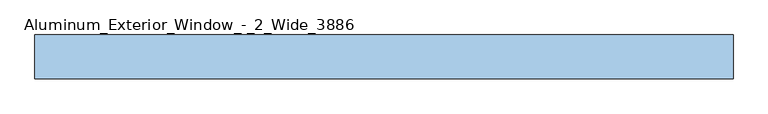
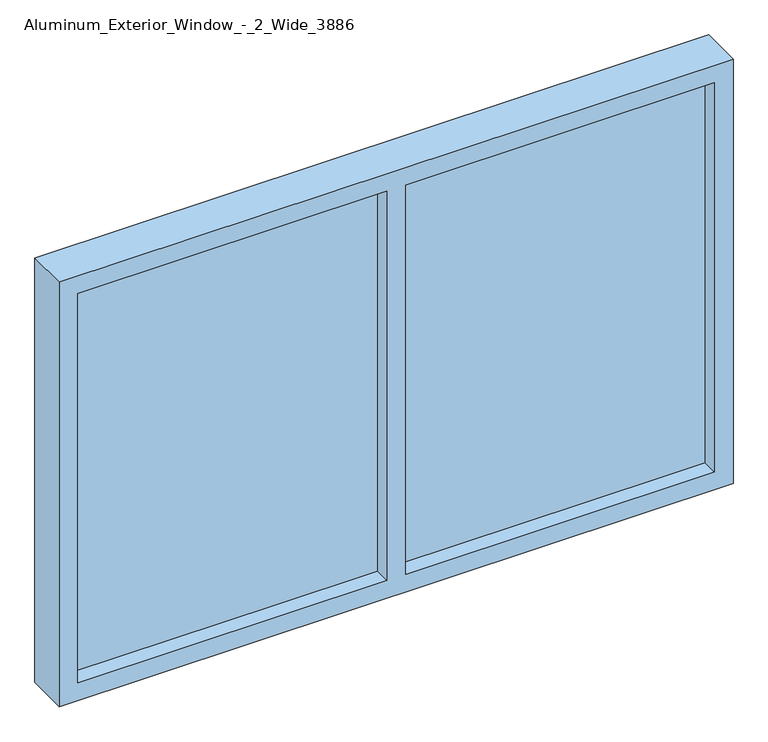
"""IFC4 building model written with IfcOpenShell, lengths in millimetres: window geometry."""

from ifc_helpers import new_model, si_unit, frame, origin, place, context, project, spatial, polyline, outline, extrude, source, transform, mapped, element, save


def aluminum_exterior_window_2_wide_3886_5f28be50(model_context):
    return source(origin(), model_context, "Body", "SweptSolid", [
        extrude(outline(polyline([(-431.8, 106.7075246), (406.4, 106.7075246), (406.4, 81.3075246), (-431.8, 81.3075246), (-431.8, 106.7075246)])), frame((0.0, 0.0, 1066.8), z_axis=(0.0, 0.0, 1.0), x_axis=(1.0, 0.0, 0.0)), (0.0, 0.0, 1.0), 1117.6),
        extrude(outline(polyline([(-1320.8, 106.7075246), (-482.6, 106.7075246), (-482.6, 81.3075246), (-1320.8, 81.3075246), (-1320.8, 106.7075246)])), frame((0.0, 0.0, 1066.8), z_axis=(0.0, 0.0, 1.0), x_axis=(1.0, 0.0, 0.0)), (0.0, 0.0, 1.0), 1117.6),
        extrude(outline(polyline([(2235.2, -1371.6), (1016.0, -1371.6), (1016.0, 457.2), (2235.2, 457.2), (2235.2, -1371.6)]), holes=[polyline([(2184.4, -431.8), (2184.4, 406.4), (1066.8, 406.4), (1066.8, -431.8), (2184.4, -431.8)]), polyline([(2184.4, -1320.8), (2184.4, -482.6), (1066.8, -482.6), (1066.8, -1320.8), (2184.4, -1320.8)])]), frame((0.0, 36.8575246, 0.0), z_axis=(0.0, 1.0, 0.0), x_axis=(0.0, 0.0, 1.0)), (0.0, 0.0, 1.0), 114.3),
    ])


if __name__ == "__main__":
    model = new_model("IFC4")
    model_context = context("Model", 3, world=origin())
    ifc_project = project(units=[si_unit("LENGTHUNIT", "METRE", prefix="MILLI")], contexts=[model_context])
    site = spatial("IfcSite", under=ifc_project)
    building = spatial("IfcBuilding", under=site)
    placement = place(None, origin())
    aluminum_exterior_window_2_wide_3886_shape = aluminum_exterior_window_2_wide_3886_5f28be50(model_context)
    element("IfcWindow", 1, ObjectType="Aluminum_Exterior_Window_-_2_Wide_3886 : 72\"W. x 48\"H.", at=placement, inside=building, context=model_context, shape_type="MappedRepresentation", body=[
        mapped(aluminum_exterior_window_2_wide_3886_shape, transform((0.0, 0.0, 0.0), x_axis=(1.0, 0.0, 0.0), y_axis=(0.0, 1.0, 0.0), z_axis=(0.0, 0.0, 1.0))),
    ])
    save(model, "model.ifc")
